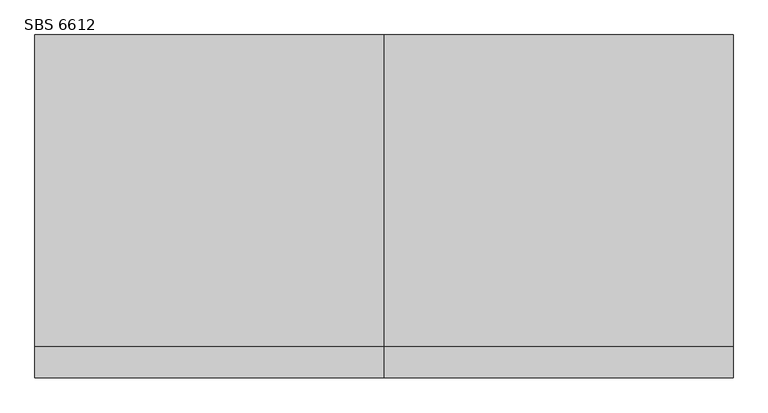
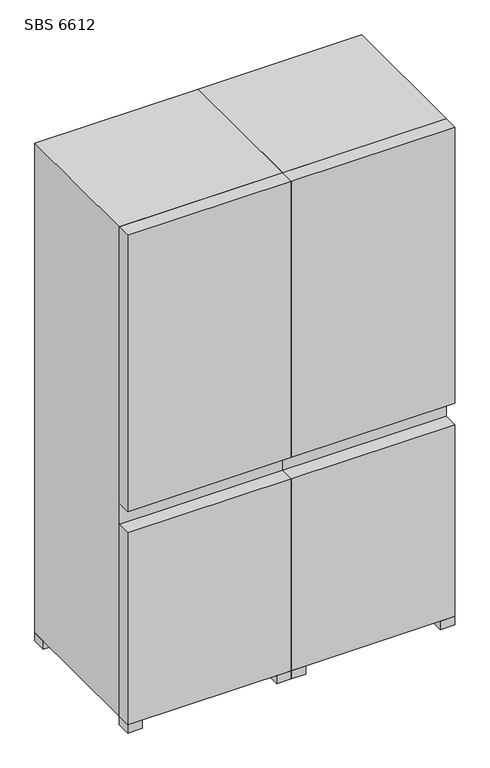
"""IFC4 building model written with IfcOpenShell, lengths in millimetres: proxy geometry, SBS 6612 : SICN 3314."""

from ifc_helpers import new_model, si_unit, frame, origin, place, context, project, spatial, polyline, outline, extrude, source, transform, mapped, element, save


def sbs_6612_d8e78066(model_context):
    return source(origin(), model_context, "Body", "SweptSolid", [
        extrude(outline(polyline([(6690.5880756, -1149.6471308), (6130.5880756, -1149.6471308), (6130.5880756, -1099.6471308), (6690.5880756, -1099.6471308), (6690.5880756, -1149.6471308)])), frame((0.0, 0.0, -805.1867483), z_axis=(0.0, 0.0, 1.0), x_axis=(1.0, 0.0, 0.0)), (0.0, 0.0, 1.0), 695.0),
        extrude(outline(polyline([(6690.5880756, -1099.6471308), (6690.5880756, -1149.6471308), (6640.5880756, -1149.6471308), (6640.5880756, -1099.6471308), (6690.5880756, -1099.6471308)])), frame((0.0, 0.0, -835.1867483), z_axis=(0.0, 0.0, 1.0), x_axis=(1.0, 0.0, 0.0)), (0.0, 0.0, 1.0), 30.0),
        extrude(outline(polyline([(6690.5880756, -599.6471308), (6690.5880756, -649.6471308), (6640.5880756, -649.6471308), (6640.5880756, -599.6471308), (6690.5880756, -599.6471308)])), frame((0.0, 0.0, -835.1867483), z_axis=(0.0, 0.0, 1.0), x_axis=(1.0, 0.0, 0.0)), (0.0, 0.0, 1.0), 30.0),
        extrude(outline(polyline([(6180.5880756, -599.6471308), (6180.5880756, -649.6471308), (6130.5880756, -649.6471308), (6130.5880756, -599.6471308), (6180.5880756, -599.6471308)])), frame((0.0, 0.0, -835.1867483), z_axis=(0.0, 0.0, 1.0), x_axis=(1.0, 0.0, 0.0)), (0.0, 0.0, 1.0), 30.0),
        extrude(outline(polyline([(6180.5880756, -1099.6471308), (6180.5880756, -1149.6471308), (6130.5880756, -1149.6471308), (6130.5880756, -1099.6471308), (6180.5880756, -1099.6471308)])), frame((0.0, 0.0, -835.1867483), z_axis=(0.0, 0.0, 1.0), x_axis=(1.0, 0.0, 0.0)), (0.0, 0.0, 1.0), 30.0),
        extrude(outline(polyline([(6690.5880756, -1149.6471308), (6130.5880756, -1149.6471308), (6130.5880756, -1099.6471308), (6690.5880756, -1099.6471308), (6690.5880756, -1149.6471308)])), frame((0.0, 0.0, -33.1867483), z_axis=(0.0, 0.0, 1.0), x_axis=(1.0, 0.0, 0.0)), (0.0, 0.0, 1.0), 1000.0),
        extrude(outline(polyline([(6690.5880756, -1099.6471308), (6130.5880756, -1099.6471308), (6130.5880756, -599.6471308), (6690.5880756, -599.6471308), (6690.5880756, -1099.6471308)])), frame((0.0, 0.0, -805.1867483), z_axis=(0.0, 0.0, 1.0), x_axis=(1.0, 0.0, 0.0)), (0.0, 0.0, 1.0), 1772.0),
        extrude(outline(polyline([(6130.5880756, -1149.6471308), (5570.5880756, -1149.6471308), (5570.5880756, -1099.6471308), (6130.5880756, -1099.6471308), (6130.5880756, -1149.6471308)])), frame((0.0, 0.0, -805.1867483), z_axis=(0.0, 0.0, 1.0), x_axis=(1.0, 0.0, 0.0)), (0.0, 0.0, 1.0), 695.0),
        extrude(outline(polyline([(6130.5880756, -1099.6471308), (6130.5880756, -1149.6471308), (6080.5880756, -1149.6471308), (6080.5880756, -1099.6471308), (6130.5880756, -1099.6471308)])), frame((0.0, 0.0, -835.1867483), z_axis=(0.0, 0.0, 1.0), x_axis=(1.0, 0.0, 0.0)), (0.0, 0.0, 1.0), 30.0),
        extrude(outline(polyline([(6130.5880756, -599.6471308), (6130.5880756, -649.6471308), (6080.5880756, -649.6471308), (6080.5880756, -599.6471308), (6130.5880756, -599.6471308)])), frame((0.0, 0.0, -835.1867483), z_axis=(0.0, 0.0, 1.0), x_axis=(1.0, 0.0, 0.0)), (0.0, 0.0, 1.0), 30.0),
        extrude(outline(polyline([(5620.5880756, -599.6471308), (5620.5880756, -649.6471308), (5570.5880756, -649.6471308), (5570.5880756, -599.6471308), (5620.5880756, -599.6471308)])), frame((0.0, 0.0, -835.1867483), z_axis=(0.0, 0.0, 1.0), x_axis=(1.0, 0.0, 0.0)), (0.0, 0.0, 1.0), 30.0),
        extrude(outline(polyline([(5620.5880756, -1099.6471308), (5620.5880756, -1149.6471308), (5570.5880756, -1149.6471308), (5570.5880756, -1099.6471308), (5620.5880756, -1099.6471308)])), frame((0.0, 0.0, -835.1867483), z_axis=(0.0, 0.0, 1.0), x_axis=(1.0, 0.0, 0.0)), (0.0, 0.0, 1.0), 30.0),
        extrude(outline(polyline([(6130.5880756, -1149.6471308), (5570.5880756, -1149.6471308), (5570.5880756, -1099.6471308), (6130.5880756, -1099.6471308), (6130.5880756, -1149.6471308)])), frame((0.0, 0.0, -33.1867483), z_axis=(0.0, 0.0, 1.0), x_axis=(1.0, 0.0, 0.0)), (0.0, 0.0, 1.0), 1000.0),
        extrude(outline(polyline([(6130.5880756, -1099.6471308), (5570.5880756, -1099.6471308), (5570.5880756, -599.6471308), (6130.5880756, -599.6471308), (6130.5880756, -1099.6471308)])), frame((0.0, 0.0, -805.1867483), z_axis=(0.0, 0.0, 1.0), x_axis=(1.0, 0.0, 0.0)), (0.0, 0.0, 1.0), 1772.0),
    ])


if __name__ == "__main__":
    model = new_model("IFC4")
    model_context = context("Model", 3, world=origin())
    ifc_project = project(units=[si_unit("LENGTHUNIT", "METRE", prefix="MILLI")], contexts=[model_context])
    site = spatial("IfcSite", under=ifc_project)
    building = spatial("IfcBuilding", under=site)
    placement = place(None, origin())
    sbs_6612_shape = sbs_6612_d8e78066(model_context)
    element("IfcBuildingElementProxy", 1, Name="SBS 6612 : SICN 3314", ObjectType="SBS 6612 : SICN 3314", at=placement, inside=building, context=model_context, shape_type="MappedRepresentation", body=[
        mapped(sbs_6612_shape, transform((0.0, 0.0, 0.0), x_axis=(1.0, 0.0, 0.0), y_axis=(0.0, 1.0, 0.0), z_axis=(0.0, 0.0, 1.0))),
    ])
    save(model, "model.ifc")
